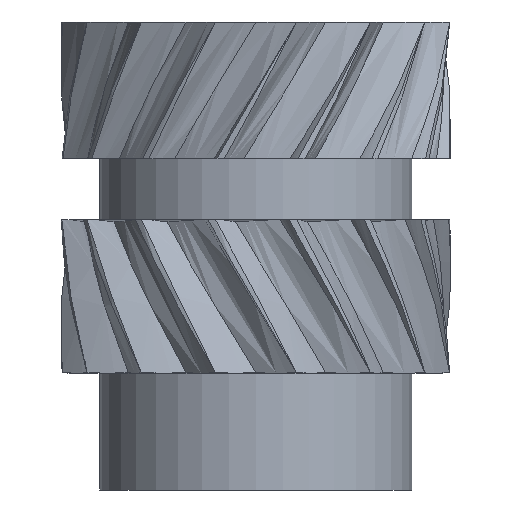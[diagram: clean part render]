
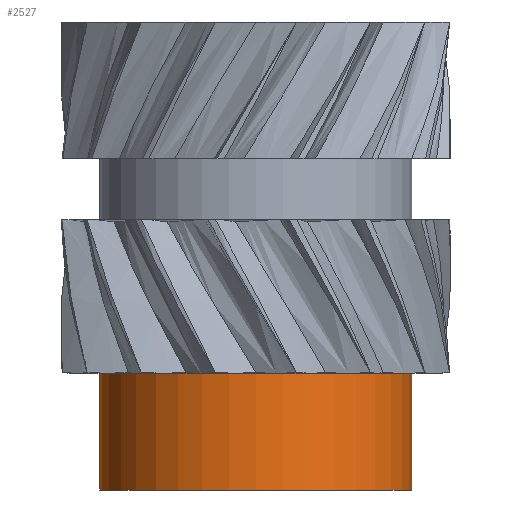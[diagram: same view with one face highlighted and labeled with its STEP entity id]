
A CAD part, front view. The second image highlights one B-rep face of the part: STEP entity #2527.
In plain terms, the highlighted cylindrical face has radius 2 mm (diameter 4 mm), a full revolution.
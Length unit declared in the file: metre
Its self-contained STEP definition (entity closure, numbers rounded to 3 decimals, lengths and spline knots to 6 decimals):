
#327=CIRCLE('',#2903,0.002);
#328=CIRCLE('',#2904,0.002);
#971=ORIENTED_EDGE('',*,*,#1548,.T.);
#972=ORIENTED_EDGE('',*,*,#1549,.F.);
#1548=EDGE_CURVE('',#1816,#1816,#327,.T.);
#1549=EDGE_CURVE('',#1817,#1817,#328,.T.);
#1816=VERTEX_POINT('',#7036);
#1817=VERTEX_POINT('',#7038);
#2137=EDGE_LOOP('',(#971));
#2138=EDGE_LOOP('',(#972));
#2294=FACE_BOUND('',#2137,.T.);
#2295=FACE_BOUND('',#2138,.T.);
#2383=CYLINDRICAL_SURFACE('',#2902,0.002);
#2527=ADVANCED_FACE('',(#2294,#2295),#2383,.T.);
#2902=AXIS2_PLACEMENT_3D('',#7034,#3641,#3642);
#2903=AXIS2_PLACEMENT_3D('',#7035,#3643,#3644);
#2904=AXIS2_PLACEMENT_3D('',#7037,#3645,#3646);
#3641=DIRECTION('',(0.,0.,-1.));
#3642=DIRECTION('',(1.,0.,0.));
#3643=DIRECTION('',(0.,0.,-1.));
#3644=DIRECTION('',(-1.,0.,0.));
#3645=DIRECTION('',(0.,0.,-1.));
#3646=DIRECTION('',(-1.,0.,0.));
#7034=CARTESIAN_POINT('',(0.,0.,0.00075));
#7035=CARTESIAN_POINT('',(0.,0.,0.0015));
#7036=CARTESIAN_POINT('',(-0.002,0.,0.0015));
#7037=CARTESIAN_POINT('',(0.,0.,0.));
#7038=CARTESIAN_POINT('',(-0.002,0.,0.));
